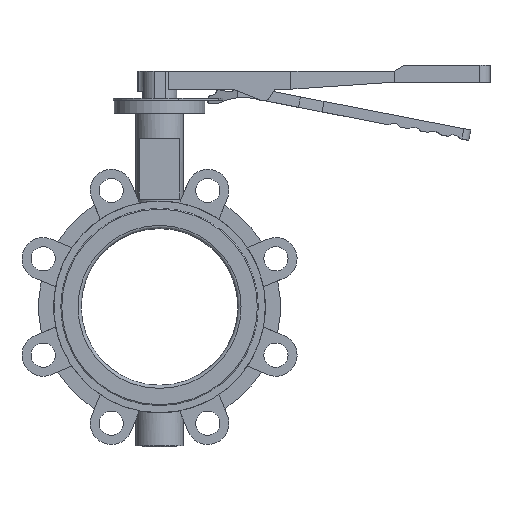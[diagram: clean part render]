
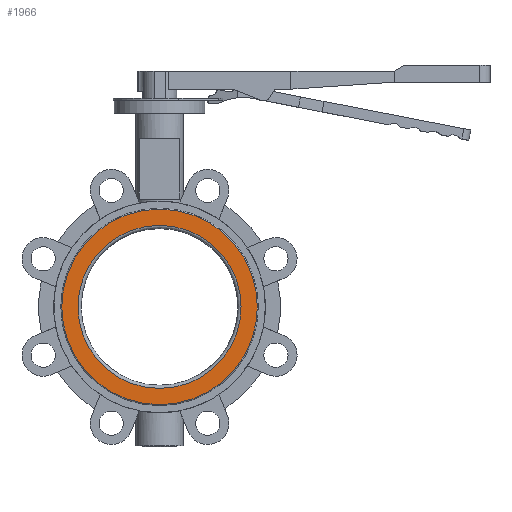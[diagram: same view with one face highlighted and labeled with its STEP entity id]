
A CAD part, front view. The second image highlights one B-rep face of the part: STEP entity #1966.
In plain terms, the highlighted planar face has unit normal (0, -1, 0) as drawn and (1, 0, 0) by its records, which use the part's own axes.
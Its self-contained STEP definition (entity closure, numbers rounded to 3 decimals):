
#1111 = DIRECTION ( 'NONE',  ( 0., 0., 1. ) ) ;
#1231 = FACE_OUTER_BOUND ( 'NONE', #1795, .T. ) ;
#1446 = DIRECTION ( 'NONE',  ( -1., 0., 0. ) ) ;
#1795 = EDGE_LOOP ( 'NONE', ( #7561 ) ) ;
#1966 = ADVANCED_FACE ( 'NONE', ( #1231, #10077 ), #2710, .F. ) ;
#2328 = CARTESIAN_POINT ( 'NONE',  ( 30., 0., 0. ) ) ;
#2710 = PLANE ( 'NONE',  #3536 ) ;
#3073 = CARTESIAN_POINT ( 'NONE',  ( 30., 0., 0. ) ) ;
#3483 = DIRECTION ( 'NONE',  ( -1., 0., 0. ) ) ;
#3536 = AXIS2_PLACEMENT_3D ( 'NONE', #5992, #3483, #1111 ) ;
#4145 = AXIS2_PLACEMENT_3D ( 'NONE', #3073, #10347, #9633 ) ;
#4962 = VERTEX_POINT ( 'NONE', #5415 ) ;
#5415 = CARTESIAN_POINT ( 'NONE',  ( 30., 0., 80.889 ) ) ;
#5792 = CIRCLE ( 'NONE', #9151, 80.889 ) ;
#5992 = CARTESIAN_POINT ( 'NONE',  ( 30., 97., 0. ) ) ;
#6535 = EDGE_LOOP ( 'NONE', ( #6604 ) ) ;
#6604 = ORIENTED_EDGE ( 'NONE', *, *, #8298, .T. ) ;
#7175 = DIRECTION ( 'NONE',  ( 0., 0., 1. ) ) ;
#7561 = ORIENTED_EDGE ( 'NONE', *, *, #10498, .F. ) ;
#7838 = CIRCLE ( 'NONE', #4145, 97. ) ;
#7911 = CARTESIAN_POINT ( 'NONE',  ( 30., 0., 97. ) ) ;
#8060 = VERTEX_POINT ( 'NONE', #7911 ) ;
#8298 = EDGE_CURVE ( 'NONE', #4962, #4962, #5792, .T. ) ;
#9151 = AXIS2_PLACEMENT_3D ( 'NONE', #2328, #1446, #7175 ) ;
#9633 = DIRECTION ( 'NONE',  ( 0., 0., 1. ) ) ;
#10077 = FACE_BOUND ( 'NONE', #6535, .T. ) ;
#10347 = DIRECTION ( 'NONE',  ( -1., 0., 0. ) ) ;
#10498 = EDGE_CURVE ( 'NONE', #8060, #8060, #7838, .T. ) ;
